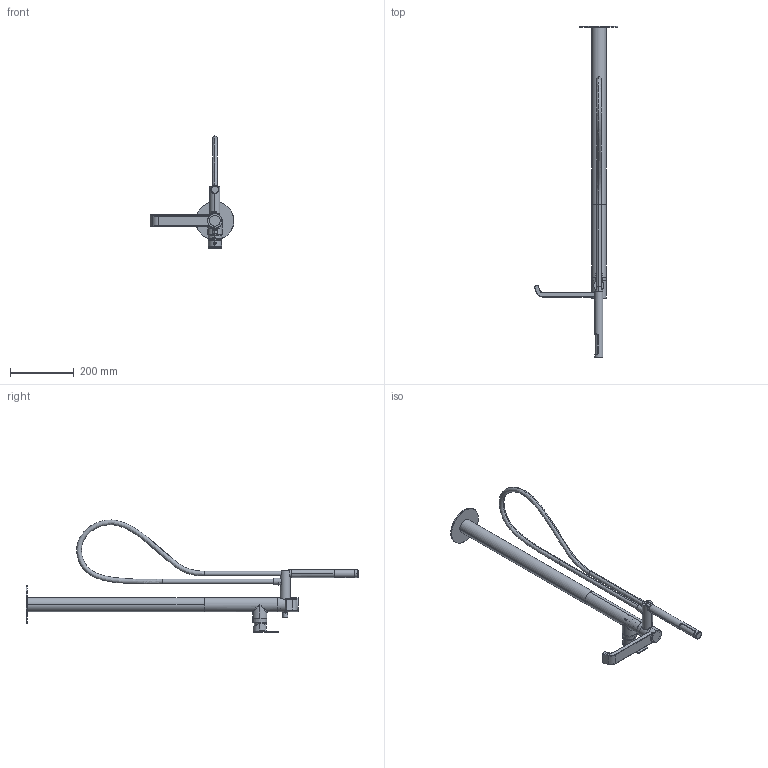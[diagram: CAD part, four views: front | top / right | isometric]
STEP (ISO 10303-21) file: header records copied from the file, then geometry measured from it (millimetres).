
FILE_DESCRIPTION((''),'2;1');
FILE_NAME('83596','2020-09-14T09:51:04',('carloff'),(''),'CREO PARAMETRIC BY PTC INC, 2018100','CREO PARAMETRIC BY PTC INC, 2018100','');
FILE_SCHEMA(('CONFIG_CONTROL_DESIGN'));
Length unit declared in the file: millimetre
Products named in the file (1): 83596
Bounding box: 264 x 1043.7 x 352.21 mm (x, y, z)
Volume: 1103694.5 mm3; surface area: 404487.7 mm2
Topology: 5 solids, 6 shells, 573 faces, 1344 edges, 794 vertices
Faces by surface type: cylinder 185, plane 153, cone 87, bspline 72, torus 60, sphere 16
Entity records: 29060 total; most frequent: CARTESIAN_POINT 16491, ORIENTED_EDGE 2664, DIRECTION 2560, EDGE_CURVE 1332, AXIS2_PLACEMENT_3D 1030, VERTEX_POINT 793, EDGE_LOOP 609, FACE_OUTER_BOUND 573
